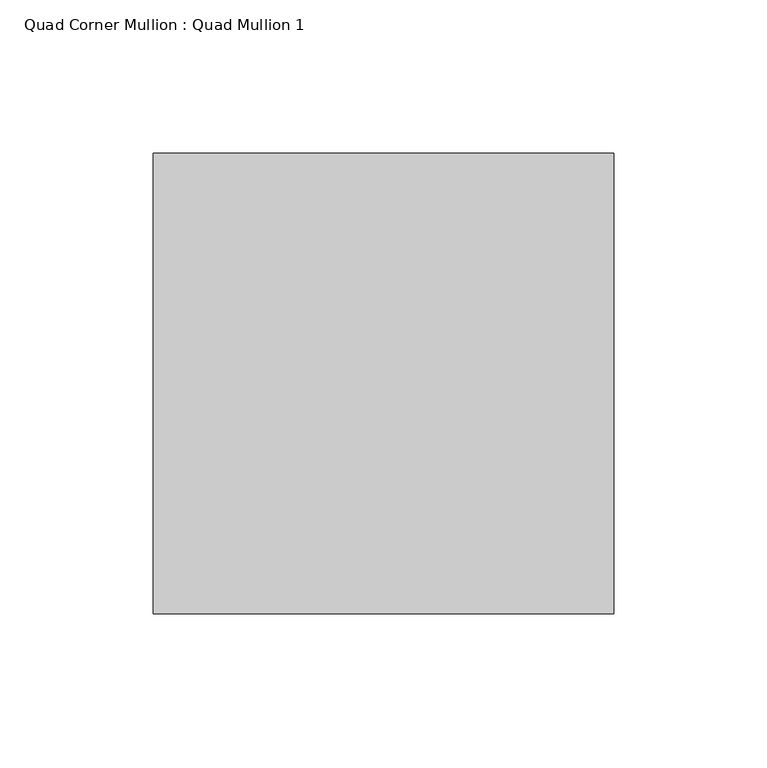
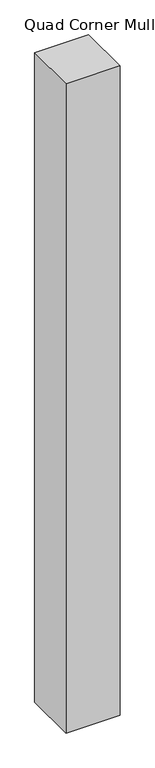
"""IFC4 building model written with IfcOpenShell, lengths in millimetres: member geometry, Quad Corner Mullion : Quad Mullion 1."""

from ifc_helpers import new_model, si_unit, frame, origin, place, context, project, spatial, polyline, outline, extrude, source, transform, mapped, element, save


def quad_corner_mullion_quad_mullion_1_17698892(model_context):
    return source(origin(), model_context, "Body", "SweptSolid", [
        extrude(outline(polyline([(75.0, 75.0), (75.0, -75.0), (-75.0, -75.0), (-75.0, 75.0), (75.0, 75.0)])), frame((0.0, 0.0, -1904.4), z_axis=(0.0, 0.0, 1.0), x_axis=(1.0, 0.0, 0.0)), (0.0, 0.0, 1.0), 1904.4),
    ])


if __name__ == "__main__":
    model = new_model("IFC4")
    model_context = context("Model", 3, world=origin())
    ifc_project = project(units=[si_unit("LENGTHUNIT", "METRE", prefix="MILLI")], contexts=[model_context])
    site = spatial("IfcSite", under=ifc_project)
    building = spatial("IfcBuilding", under=site)
    placement = place(None, origin())
    quad_corner_mullion_quad_mullion_1_shape = quad_corner_mullion_quad_mullion_1_17698892(model_context)
    element("IfcMember", 1, ObjectType="Quad Corner Mullion : Quad Mullion 1", at=placement, inside=building, context=model_context, shape_type="MappedRepresentation", body=[
        mapped(quad_corner_mullion_quad_mullion_1_shape, transform((0.0, 0.0, 0.0), x_axis=(1.0, 0.0, 0.0), y_axis=(0.0, 1.0, 0.0), z_axis=(0.0, 0.0, 1.0))),
    ])
    save(model, "model.ifc")
